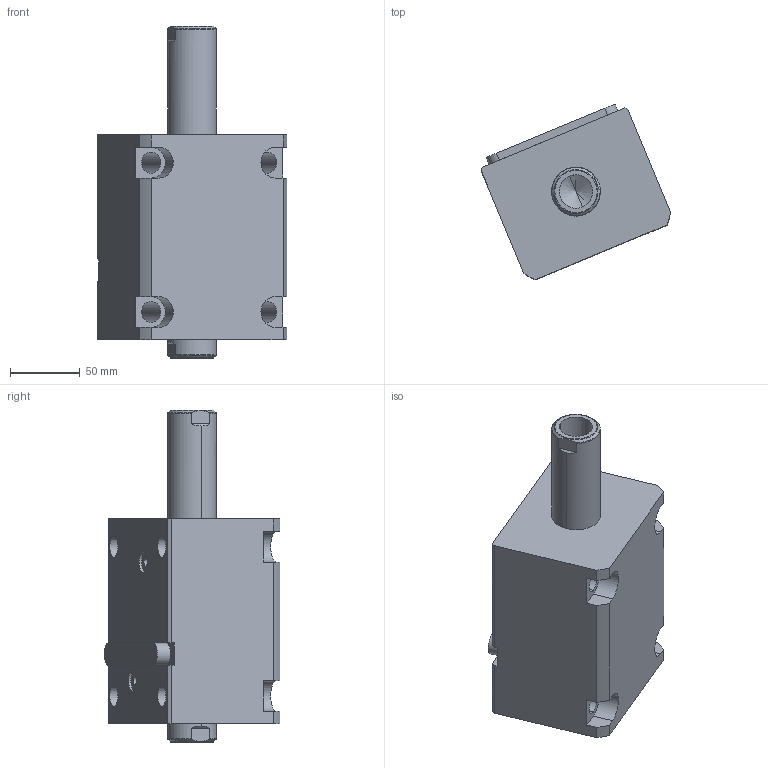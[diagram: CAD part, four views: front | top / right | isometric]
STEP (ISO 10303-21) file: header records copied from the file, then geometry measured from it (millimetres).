
FILE_DESCRIPTION (( 'STEP AP214' ), '1' );
FILE_NAME ('chtb-lwm63x65n_asm.STEP', '2018-05-22T02:19:44', ( 'Windows' ), ( 'Microsoft' ), 'SwSTEP 2.0', 'SolidWorks 2015', '' );
FILE_SCHEMA (( 'AUTOMOTIVE_DESIGN' ));
Length unit declared in the file: millimetre
Products named in the file (5): CHTB-SW63X65NHSG; CHTB-LWM63X65NBT; CHTB-LA63PJ; CHTB-63QG; chtb-lwm63x65n_asm
Assembly tree (4 placements, depth 2):
  chtb-lwm63x65n_asm
    CHTB-63QG
    CHTB-LA63PJ
    CHTB-LWM63X65NBT
    CHTB-SW63X65NHSG
Bounding box: 135.77 x 126.06 x 238 mm (x, y, z)
Volume: 1340949 mm3; surface area: 182845.2 mm2
Topology: 4 solids, 4 shells, 186 faces, 543 edges, 367 vertices
Faces by surface type: cylinder 103, plane 47, bspline 12, cone 12, torus 12
Entity records: 18665 total; most frequent: CARTESIAN_POINT 13839, ORIENTED_EDGE 1070, DIRECTION 834, EDGE_CURVE 535, VERTEX_POINT 367, AXIS2_PLACEMENT_3D 318, EDGE_LOOP 212, VECTOR 198
